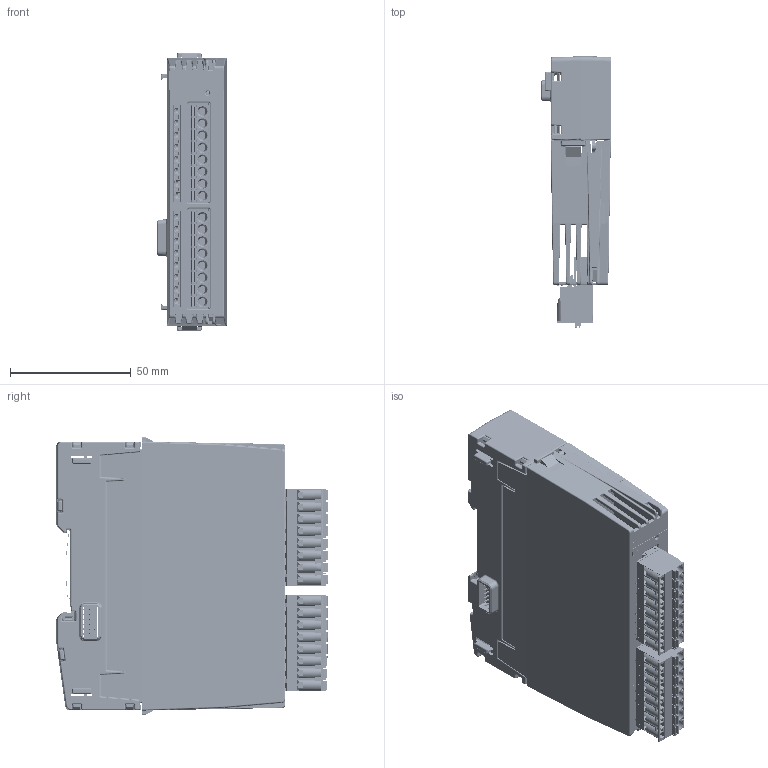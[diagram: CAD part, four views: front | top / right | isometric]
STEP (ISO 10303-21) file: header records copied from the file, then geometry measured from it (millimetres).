
FILE_DESCRIPTION(/* description */ (''),/* implementation_level */ '2;1');
FILE_NAME(/* name */ 'C:\Users\Public\Documents\Autodesk\Inventor 2023\DM08H_Simplified+BackBB21B.stp',/* time_stamp */ '2024-11-19T20:12:54+01:00',/* author */ ('shoma'),/* organization */ (''),/* preprocessor_version */ 'ST-DEVELOPER v19',/* originating_system */ 'Autodesk Inventor 2023',/* authorisation */ '');
FILE_SCHEMA (('AUTOMOTIVE_DESIGN { 1 0 10303 214 3 1 1 }'));
Products named in the file (1): DM08H_Simplified+BackBB21B
Bounding box: 28.9 x 112.54 x 115.5 mm (x, y, z)
Volume: 141962.6 mm3; surface area: 89247 mm2
Topology: 8 solids, 8 shells, 8756 faces, 24342 edges, 15545 vertices
Faces by surface type: plane 5352, cylinder 2296, bspline 804, sphere 166, cone 97, torus 41
Full cylindrical faces by diameter (mm): 0.3 x148, 0.38 x2, 0.7 x36, 0.8 x6, 0.85 x24, 0.9 x8, 1.3 x24, 1.4 x4, 1.5 x16, 1.6 x2, 2.35 x2, 2.5 x1, 3 x17, 3.25 x2, 4 x16
Entity records: 353874 total; most frequent: CARTESIAN_POINT 120220, ORIENTED_EDGE 48362, DIRECTION 44900, EDGE_CURVE 24181, LINE 17074, VECTOR 17074, VERTEX_POINT 15545, AXIS2_PLACEMENT_3D 13913
